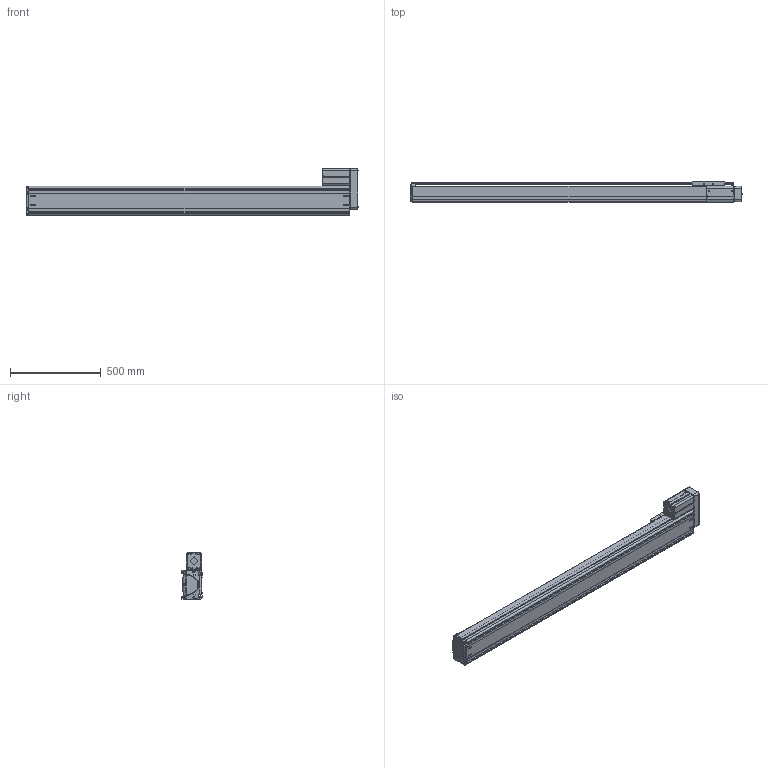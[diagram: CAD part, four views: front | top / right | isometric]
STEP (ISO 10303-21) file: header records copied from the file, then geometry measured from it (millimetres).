
FILE_DESCRIPTION((''),'2;1');
FILE_NAME('BE50F-UR-M_N-F0_IGS_PRT','2017-06-18T',(' '),(''),'PRO/ENGINEER BY PARAMETRIC TECHNOLOGY CORPORATION, 2015030','PRO/ENGINEER BY PARAMETRIC TECHNOLOGY CORPORATION, 2015030','');
FILE_SCHEMA(('CONFIG_CONTROL_DESIGN'));
Length unit declared in the file: millimetre
Products named in the file (1): BE50F-UR-M_N-F0_IGS_PRT
Bounding box: 1825.88 x 110 x 257 mm (x, y, z)
Volume: 6904914.5 mm3; surface area: 2944674.9 mm2
Topology: 7 solids, 163 shells, 2356 faces, 6486 edges, 4261 vertices
Faces by surface type: cylinder 1052, plane 1018, cone 147, torus 59, bspline 48, sphere 32
Entity records: 78938 total; most frequent: CARTESIAN_POINT 18390, DIRECTION 12585, ORIENTED_EDGE 12327, EDGE_CURVE 6448, AXIS2_PLACEMENT_3D 4513, VERTEX_POINT 4257, VECTOR 3559, LINE 3559
